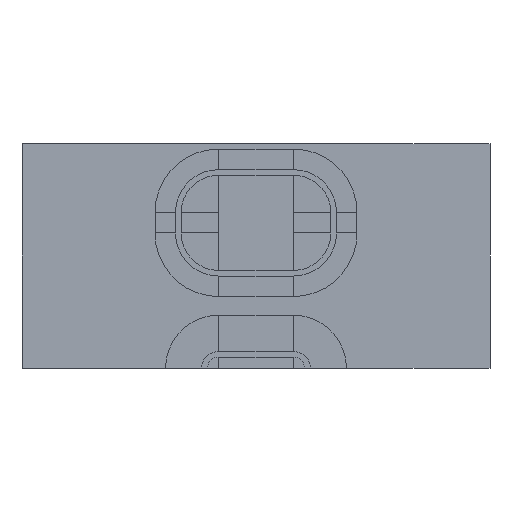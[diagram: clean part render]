
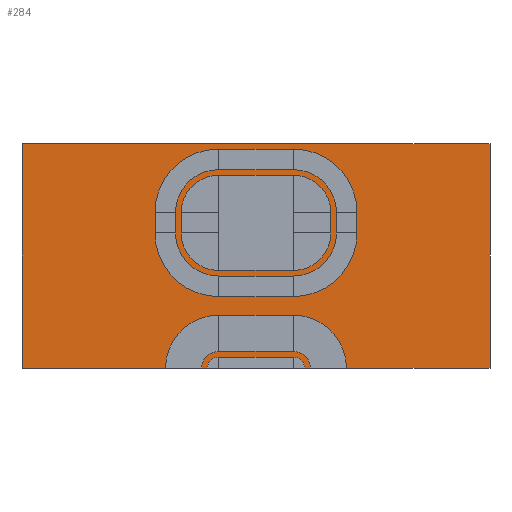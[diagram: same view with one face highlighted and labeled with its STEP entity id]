
A CAD part, front view. The second image highlights one B-rep face of the part: STEP entity #284.
In plain terms, the highlighted planar face has unit normal (0, -1, 0).
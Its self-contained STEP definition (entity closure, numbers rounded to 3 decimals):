
#284=ADVANCED_FACE('',(#435),#436,.T.);
#435=FACE_OUTER_BOUND('',#709,.T.);
#436=PLANE('',#710);
#709=EDGE_LOOP('',(#993,#994,#995,#996));
#710=AXIS2_PLACEMENT_3D('',#997,#998,#999);
#993=ORIENTED_EDGE('',*,*,#1878,.T.);
#994=ORIENTED_EDGE('',*,*,#1879,.F.);
#995=ORIENTED_EDGE('',*,*,#1880,.F.);
#996=ORIENTED_EDGE('',*,*,#1876,.T.);
#997=CARTESIAN_POINT('',(0.0,61.1,0.0));
#998=DIRECTION('',(0.0,-1.0,0.0));
#999=DIRECTION('',(1.0,0.0,-0.0));
#1876=EDGE_CURVE('',#2148,#2146,#2149,.T.);
#1878=EDGE_CURVE('',#2146,#2151,#2152,.T.);
#1879=EDGE_CURVE('',#2153,#2151,#2154,.T.);
#1880=EDGE_CURVE('',#2148,#2153,#2155,.T.);
#2146=VERTEX_POINT('',#2558);
#2148=VERTEX_POINT('',#2561);
#2149=LINE('',#2562,#2563);
#2151=VERTEX_POINT('',#2566);
#2152=LINE('',#2567,#2568);
#2153=VERTEX_POINT('',#2569);
#2154=LINE('',#2570,#2571);
#2155=LINE('',#2572,#2573);
#2558=CARTESIAN_POINT('',(125.0,61.1,120.0));
#2561=CARTESIAN_POINT('',(125.0,61.1,0.0));
#2562=CARTESIAN_POINT('',(125.0,61.1,0.0));
#2563=VECTOR('',#3175,1.0);
#2566=CARTESIAN_POINT('',(-125.0,61.1,120.0));
#2567=CARTESIAN_POINT('',(125.0,61.1,120.0));
#2568=VECTOR('',#3177,1.0);
#2569=CARTESIAN_POINT('',(-125.0,61.1,0.0));
#2570=CARTESIAN_POINT('',(-125.0,61.1,0.0));
#2571=VECTOR('',#3178,1.0);
#2572=CARTESIAN_POINT('',(125.0,61.1,0.0));
#2573=VECTOR('',#3179,1.0);
#3175=DIRECTION('',(0.0,0.0,1.0));
#3177=DIRECTION('',(-1.0,0.0,0.0));
#3178=DIRECTION('',(0.0,0.0,1.0));
#3179=DIRECTION('',(-1.0,0.0,0.0));
